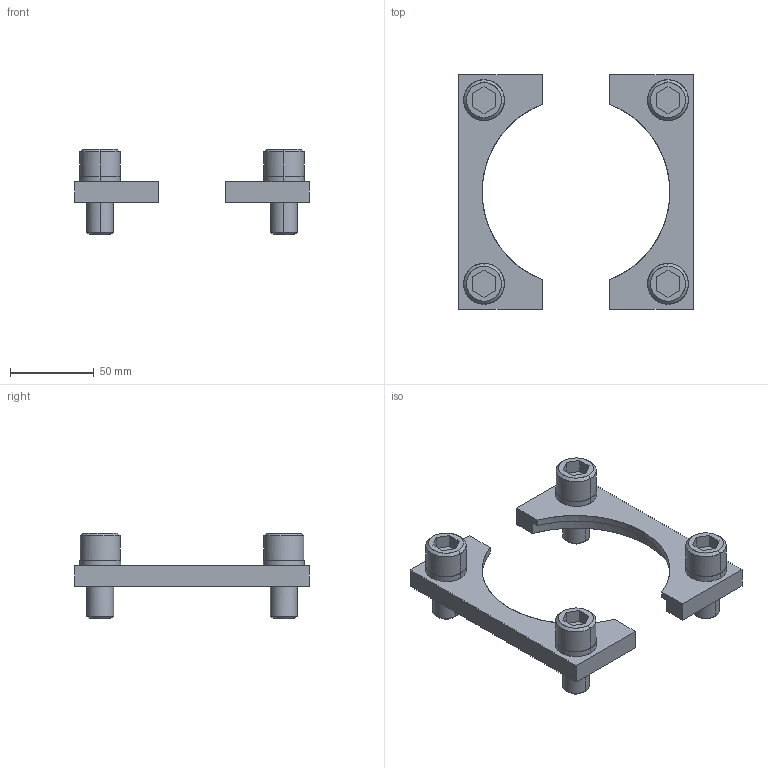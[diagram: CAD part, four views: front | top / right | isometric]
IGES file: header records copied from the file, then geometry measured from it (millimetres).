
Global section: file name: E:\UnigraphicsGraphicData\MISUMI_PRESS-PARTS\IGES\3d_sf120_05182_r00.igs; native system: NX V5.0; preprocessor: UGS NX IGES V5.0; author: MISUMI; date: 20110105.162526; units: millimetre
Bounding box: 140 x 140 x 51 mm (x, y, z)
Surface area: 48175.3 mm2 (no closed solid volume)
Topology: 0 solids, 0 shells, 136 faces, 900 edges, 900 vertices
Faces by surface type: bspline 136
